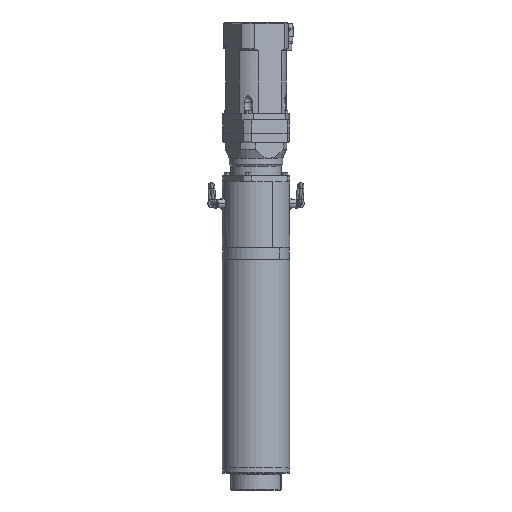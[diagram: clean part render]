
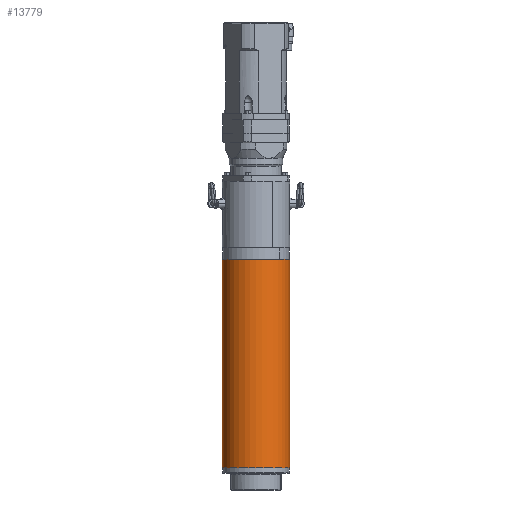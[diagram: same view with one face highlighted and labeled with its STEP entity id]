
A CAD part, front view. The second image highlights one B-rep face of the part: STEP entity #13779.
In plain terms, the highlighted cylindrical face has radius 120 mm (diameter 240 mm), a partial arc.
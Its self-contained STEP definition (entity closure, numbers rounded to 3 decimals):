
#1515 = ORIENTED_EDGE ( 'NONE', *, *, #27427, .F. ) ;
#1823 = DIRECTION ( 'NONE',  ( 0., 0., -1. ) ) ;
#3112 = VECTOR ( 'NONE', #31527, 1000. ) ;
#4302 = CARTESIAN_POINT ( 'NONE',  ( -120., 0., 20. ) ) ;
#4917 = CARTESIAN_POINT ( 'NONE',  ( -120., 0., 0. ) ) ;
#5407 = CIRCLE ( 'NONE', #29422, 120. ) ;
#5971 = DIRECTION ( 'NONE',  ( 0., 0., -1. ) ) ;
#7425 = LINE ( 'NONE', #10381, #3112 ) ;
#8421 = CARTESIAN_POINT ( 'NONE',  ( 120., 0., 20. ) ) ;
#9753 = EDGE_CURVE ( 'NONE', #23978, #11002, #5407, .T. ) ;
#10129 = AXIS2_PLACEMENT_3D ( 'NONE', #26239, #1823, #13621 ) ;
#10307 = CARTESIAN_POINT ( 'NONE',  ( 0., 0., 764. ) ) ;
#10381 = CARTESIAN_POINT ( 'NONE',  ( 120., 0., 0. ) ) ;
#11002 = VERTEX_POINT ( 'NONE', #13620 ) ;
#11471 = EDGE_LOOP ( 'NONE', ( #1515, #24110, #12578, #24927 ) ) ;
#12205 = VERTEX_POINT ( 'NONE', #4302 ) ;
#12578 = ORIENTED_EDGE ( 'NONE', *, *, #21411, .T. ) ;
#13620 = CARTESIAN_POINT ( 'NONE',  ( -120., 0., 764. ) ) ;
#13621 = DIRECTION ( 'NONE',  ( -1., 0., 0. ) ) ;
#13779 = ADVANCED_FACE ( 'NONE', ( #24636 ), #32860, .T. ) ;
#15101 = CIRCLE ( 'NONE', #10129, 120. ) ;
#15823 = DIRECTION ( 'NONE',  ( 0., 0., -1. ) ) ;
#16587 = VERTEX_POINT ( 'NONE', #8421 ) ;
#18320 = CARTESIAN_POINT ( 'NONE',  ( 0., 0., 0. ) ) ;
#18455 = AXIS2_PLACEMENT_3D ( 'NONE', #18320, #5971, #33812 ) ;
#21411 = EDGE_CURVE ( 'NONE', #11002, #12205, #24948, .T. ) ;
#23978 = VERTEX_POINT ( 'NONE', #36883 ) ;
#24110 = ORIENTED_EDGE ( 'NONE', *, *, #9753, .T. ) ;
#24636 = FACE_OUTER_BOUND ( 'NONE', #11471, .T. ) ;
#24927 = ORIENTED_EDGE ( 'NONE', *, *, #27651, .F. ) ;
#24948 = LINE ( 'NONE', #4917, #37117 ) ;
#26239 = CARTESIAN_POINT ( 'NONE',  ( 0., 0., 20. ) ) ;
#27427 = EDGE_CURVE ( 'NONE', #23978, #16587, #7425, .T. ) ;
#27651 = EDGE_CURVE ( 'NONE', #16587, #12205, #15101, .T. ) ;
#29422 = AXIS2_PLACEMENT_3D ( 'NONE', #10307, #15823, #34531 ) ;
#29647 = DIRECTION ( 'NONE',  ( 0., 0., -1. ) ) ;
#31527 = DIRECTION ( 'NONE',  ( 0., 0., -1. ) ) ;
#32860 = CYLINDRICAL_SURFACE ( 'NONE', #18455, 120. ) ;
#33812 = DIRECTION ( 'NONE',  ( -1., 0., 0. ) ) ;
#34531 = DIRECTION ( 'NONE',  ( -1., 0., 0. ) ) ;
#36883 = CARTESIAN_POINT ( 'NONE',  ( 120., 0., 764. ) ) ;
#37117 = VECTOR ( 'NONE', #29647, 1000. ) ;
